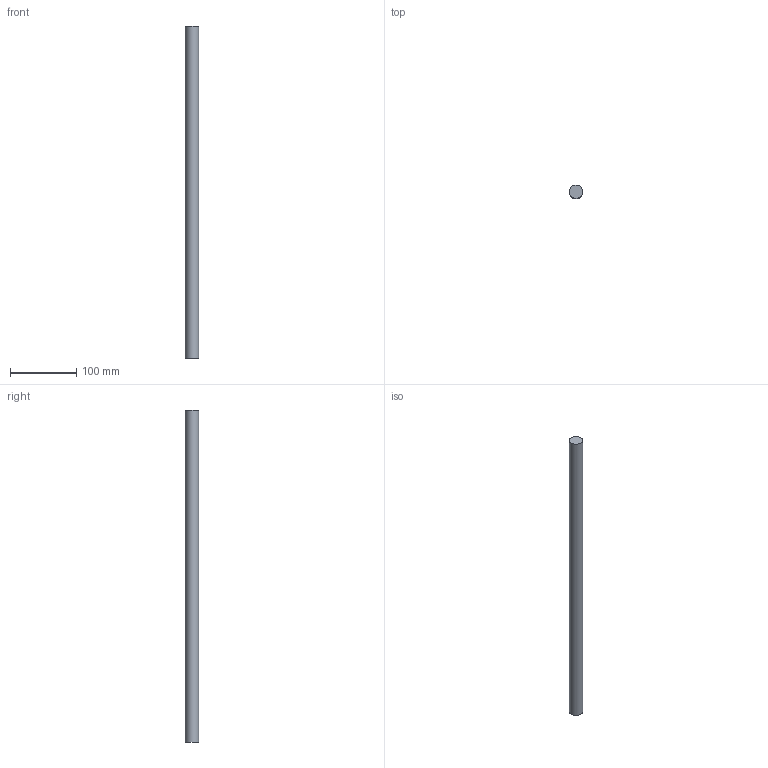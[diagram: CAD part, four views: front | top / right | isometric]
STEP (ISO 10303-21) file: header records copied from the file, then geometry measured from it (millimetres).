
FILE_DESCRIPTION(/* description */ (''),/* implementation_level */ '2;1');
FILE_NAME(/* name */ 'C:\Users\David\Desktop\stepFiles\Profilfuehrung\WF20x500.stp',/* time_stamp */ '2018-06-24T15:49:02+02:00',/* author */ ('David'),/* organization */ (''),/* preprocessor_version */ 'ST-DEVELOPER v17',/* originating_system */ 'Autodesk Inventor 2019',/* authorisation */ '');
FILE_SCHEMA (('AUTOMOTIVE_DESIGN { 1 0 10303 214 3 1 1 }'));
Length unit declared in the file: millimetre
Products named in the file (1): Wellenfuehrung
Bounding box: 20 x 20 x 500 mm (x, y, z)
Volume: 157079.6 mm3; surface area: 32044.2 mm2
Topology: 1 solids, 1 shells, 3 faces, 3 edges, 2 vertices
Faces by surface type: plane 2, cylinder 1
Full cylindrical faces by diameter (mm): 20 x1
Entity records: 98 total; most frequent: DIRECTION 13, CARTESIAN_POINT 9, ORIENTED_EDGE 6, AXIS2_PLACEMENT_3D 6, FACE_OUTER_BOUND 3, EDGE_LOOP 3, EDGE_CURVE 3, ADVANCED_FACE 3
